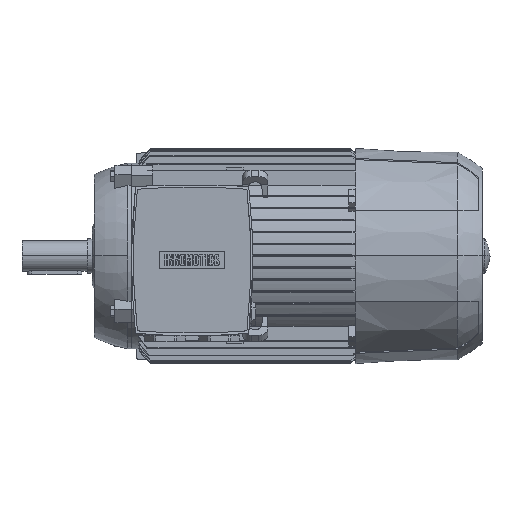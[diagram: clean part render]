
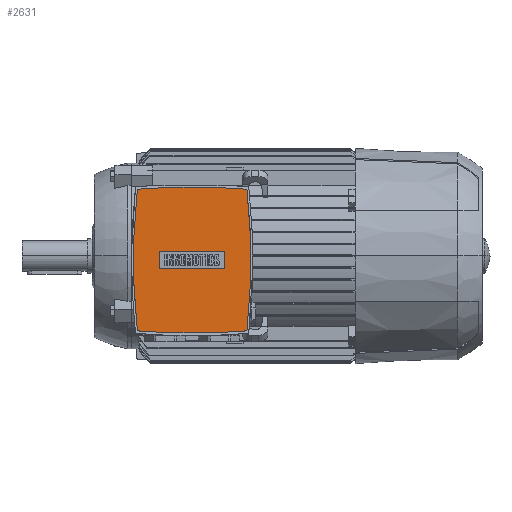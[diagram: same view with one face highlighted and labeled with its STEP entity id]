
A CAD part, top view. The second image highlights one B-rep face of the part: STEP entity #2631.
In plain terms, the highlighted planar face has unit normal (0, 0, 1).
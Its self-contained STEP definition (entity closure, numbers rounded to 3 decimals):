
#2631=ADVANCED_FACE('',(#5589,#5590),#5591,.T.);
#5589=FACE_BOUND('',#8875,.T.);
#5590=FACE_OUTER_BOUND('',#8876,.T.);
#5591=PLANE('',#8877);
#8875=EDGE_LOOP('',(#17168,#17169,#17170,#17171));
#8876=EDGE_LOOP('',(#17172,#17173,#17174,#17175,#17176,#17177));
#8877=AXIS2_PLACEMENT_3D('',#17178,#17179,#17180);
#17168=ORIENTED_EDGE('',*,*,#23254,.T.);
#17169=ORIENTED_EDGE('',*,*,#23258,.T.);
#17170=ORIENTED_EDGE('',*,*,#23261,.T.);
#17171=ORIENTED_EDGE('',*,*,#23263,.T.);
#17172=ORIENTED_EDGE('',*,*,#23331,.T.);
#17173=ORIENTED_EDGE('',*,*,#23322,.T.);
#17174=ORIENTED_EDGE('',*,*,#20384,.T.);
#17175=ORIENTED_EDGE('',*,*,#23318,.T.);
#17176=ORIENTED_EDGE('',*,*,#20369,.T.);
#17177=ORIENTED_EDGE('',*,*,#23329,.T.);
#17178=CARTESIAN_POINT('',(56.0,-4.0,166.0));
#17179=DIRECTION('',(0.0,0.0,1.0));
#17180=DIRECTION('',(0.0,-1.0,0.0));
#20369=EDGE_CURVE('',#24620,#24617,#24621,.T.);
#20384=EDGE_CURVE('',#24642,#24646,#24648,.T.);
#23254=EDGE_CURVE('',#28982,#28980,#28983,.T.);
#23258=EDGE_CURVE('',#28980,#28986,#28988,.T.);
#23261=EDGE_CURVE('',#28986,#28990,#28992,.T.);
#23263=EDGE_CURVE('',#28990,#28982,#28994,.T.);
#23318=EDGE_CURVE('',#24646,#24620,#29072,.T.);
#23322=EDGE_CURVE('',#29076,#24642,#29077,.T.);
#23329=EDGE_CURVE('',#24617,#29084,#29086,.T.);
#23331=EDGE_CURVE('',#29084,#29076,#29088,.T.);
#24617=VERTEX_POINT('',#31639);
#24620=VERTEX_POINT('',#31643);
#24621=CIRCLE('',#31644,692.16);
#24642=VERTEX_POINT('',#31691);
#24646=VERTEX_POINT('',#31696);
#24648=CIRCLE('',#31699,692.16);
#28980=VERTEX_POINT('',#41857);
#28982=VERTEX_POINT('',#41860);
#28983=LINE('',#41861,#41862);
#28986=VERTEX_POINT('',#41866);
#28988=LINE('',#41869,#41870);
#28990=VERTEX_POINT('',#41872);
#28992=LINE('',#41875,#41876);
#28994=LINE('',#41878,#41879);
#29072=CIRCLE('',#41995,594.0);
#29076=VERTEX_POINT('',#41999);
#29077=CIRCLE('',#42000,692.16);
#29084=VERTEX_POINT('',#42009);
#29086=CIRCLE('',#42012,692.16);
#29088=CIRCLE('',#42014,594.0);
#31639=CARTESIAN_POINT('',(56.,63.0,166.0));
#31643=CARTESIAN_POINT('',(106.415,61.162,166.0));
#31644=AXIS2_PLACEMENT_3D('',#44833,#44834,#44835);
#31691=CARTESIAN_POINT('',(56.,-71.0,166.0));
#31696=CARTESIAN_POINT('',(106.415,-69.162,166.0));
#31699=AXIS2_PLACEMENT_3D('',#44857,#44858,#44859);
#41857=CARTESIAN_POINT('',(26.0,-12.05,166.0));
#41860=CARTESIAN_POINT('',(86.0,-12.05,166.0));
#41861=CARTESIAN_POINT('',(56.0,-12.05,166.0));
#41862=VECTOR('',#47762,1.0);
#41866=CARTESIAN_POINT('',(26.0,4.05,166.0));
#41869=CARTESIAN_POINT('',(26.0,-4.0,166.0));
#41870=VECTOR('',#47765,1.0);
#41872=CARTESIAN_POINT('',(86.0,4.05,166.0));
#41875=CARTESIAN_POINT('',(56.0,4.05,166.0));
#41876=VECTOR('',#47767,1.0);
#41878=CARTESIAN_POINT('',(86.0,-4.0,166.0));
#41879=VECTOR('',#47768,1.0);
#41995=AXIS2_PLACEMENT_3D('',#47849,#47850,#47851);
#41999=CARTESIAN_POINT('',(5.585,-69.162,166.0));
#42000=AXIS2_PLACEMENT_3D('',#47855,#47856,#47857);
#42009=CARTESIAN_POINT('',(5.585,61.162,166.0));
#42012=AXIS2_PLACEMENT_3D('',#47864,#47865,#47866);
#42014=AXIS2_PLACEMENT_3D('',#47867,#47868,#47869);
#44833=CARTESIAN_POINT('',(56.0,-629.16,166.0));
#44834=DIRECTION('',(0.0,-0.0,1.0));
#44835=DIRECTION('',(0.0,1.0,0.0));
#44857=CARTESIAN_POINT('',(56.0,621.16,166.0));
#44858=DIRECTION('',(0.0,-0.0,1.0));
#44859=DIRECTION('',(0.0,1.0,0.0));
#47762=DIRECTION('',(-1.0,0.0,0.0));
#47765=DIRECTION('',(0.0,1.0,0.0));
#47767=DIRECTION('',(1.0,0.0,-0.0));
#47768=DIRECTION('',(0.0,-1.0,0.0));
#47849=CARTESIAN_POINT('',(-484.0,-4.0,166.0));
#47850=DIRECTION('',(0.0,-0.0,1.0));
#47851=DIRECTION('',(0.0,1.0,0.0));
#47855=CARTESIAN_POINT('',(56.0,621.16,166.0));
#47856=DIRECTION('',(0.0,-0.0,1.0));
#47857=DIRECTION('',(0.0,1.0,0.0));
#47864=CARTESIAN_POINT('',(56.0,-629.16,166.0));
#47865=DIRECTION('',(0.0,-0.0,1.0));
#47866=DIRECTION('',(0.0,1.0,0.0));
#47867=CARTESIAN_POINT('',(596.0,-4.0,166.0));
#47868=DIRECTION('',(0.0,-0.0,1.0));
#47869=DIRECTION('',(0.0,1.0,0.0));
